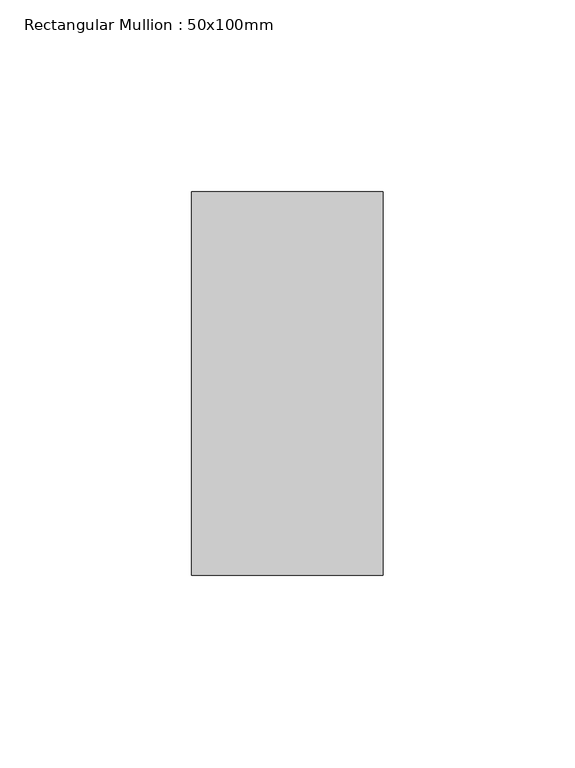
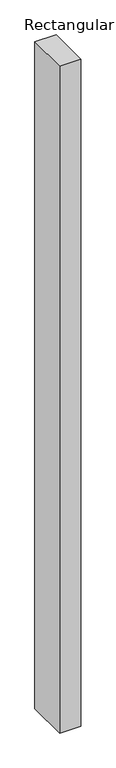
"""IFC4 building model written with IfcOpenShell, lengths in millimetres: member geometry, Rectangular Mullion : 50x100mm."""

from ifc_helpers import new_model, si_unit, frame, origin, place, context, project, spatial, polyline, outline, extrude, source, transform, mapped, element, save


def rectangular_mullion_50x100mm_3bc046fc(model_context):
    return source(origin(), model_context, "Body", "SweptSolid", [
        extrude(outline(polyline([(0.0, 50.0), (0.0, -50.0), (-50.0, -50.0), (-50.0, 50.0), (0.0, 50.0)])), frame((0.0, 0.0, -1649.0564459), z_axis=(0.0, 0.0, 1.0), x_axis=(1.0, 0.0, 0.0)), (0.0, 0.0, 1.0), 1649.0564459),
    ])


if __name__ == "__main__":
    model = new_model("IFC4")
    model_context = context("Model", 3, world=origin())
    ifc_project = project(units=[si_unit("LENGTHUNIT", "METRE", prefix="MILLI")], contexts=[model_context])
    site = spatial("IfcSite", under=ifc_project)
    building = spatial("IfcBuilding", under=site)
    placement = place(None, origin())
    rectangular_mullion_50x100mm_shape = rectangular_mullion_50x100mm_3bc046fc(model_context)
    element("IfcMember", 1, ObjectType="Rectangular Mullion : 50x100mm", at=placement, inside=building, context=model_context, shape_type="MappedRepresentation", body=[
        mapped(rectangular_mullion_50x100mm_shape, transform((0.0, 0.0, 0.0), x_axis=(1.0, 0.0, 0.0), y_axis=(0.0, 1.0, 0.0), z_axis=(0.0, 0.0, 1.0))),
    ])
    save(model, "model.ifc")
